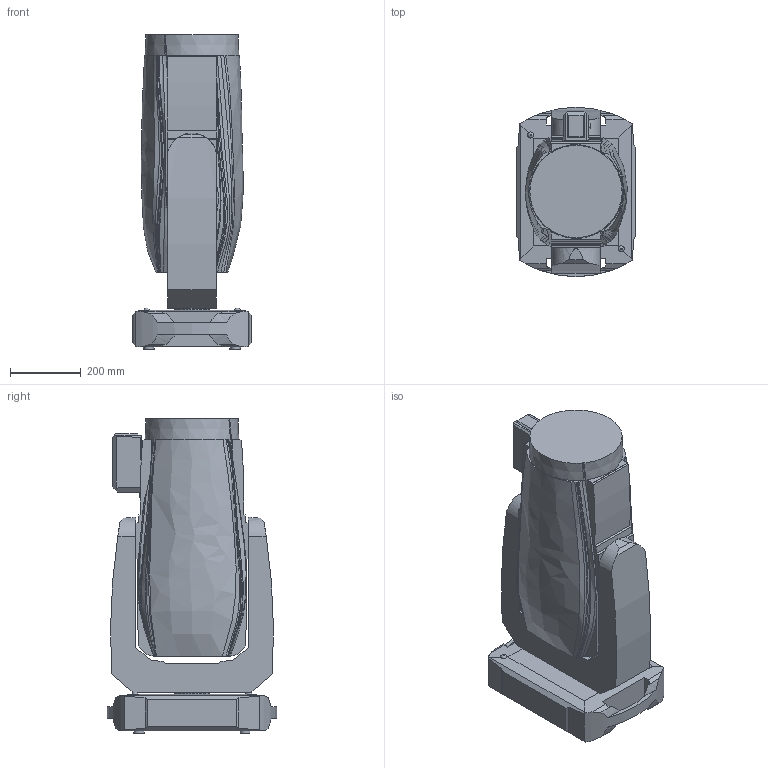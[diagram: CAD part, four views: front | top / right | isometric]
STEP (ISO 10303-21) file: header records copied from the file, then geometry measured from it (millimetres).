
FILE_DESCRIPTION(/* description */ ('Unknown'),/* implementation_level */ '2;1');
FILE_NAME(/* name */ '3D-iForte LT FoSp',/* time_stamp */ '2023-11-06T16:07:39+01:00',/* author */ ('Unknown'),/* organization */ ('Unknown'),/* preprocessor_version */ 'ST-DEVELOPER v18.104',/* originating_system */ 'Solid Edge',/* authorisation */ 'Unknown');
FILE_SCHEMA (('AUTOMOTIVE_DESIGN {1 0 10303 214 3 1 1}'));
Length unit declared in the file: millimetre
Products named in the file (5): 3D-iForte LT FoSp; iForte LT-Base; iForte LT-Arm; iForte LT-Head; iForte LT-Camera
Assembly tree (4 placements, depth 2):
  3D-iForte LT FoSp
    iForte LT-Base
    iForte LT-Arm
    iForte LT-Head
    iForte LT-Camera
Bounding box: 335.42 x 478.88 x 888.06 mm (x, y, z)
Volume: 73571978 mm3; surface area: 1862044.5 mm2
Topology: 4 solids, 4 shells, 223 faces, 629 edges, 420 vertices
Faces by surface type: plane 127, bspline 51, cylinder 41, torus 2, cone 2
Full cylindrical faces by diameter (mm): 13 x2, 17 x1, 27.261 x2, 29.966 x2, 49.847 x2, 49.99 x1, 95.6 x1, 97.471 x1
Entity records: 9256 total; most frequent: CARTESIAN_POINT 3866, ORIENTED_EDGE 1204, DIRECTION 893, EDGE_CURVE 602, VERTEX_POINT 409, LINE 329, VECTOR 329, AXIS2_PLACEMENT_3D 282
